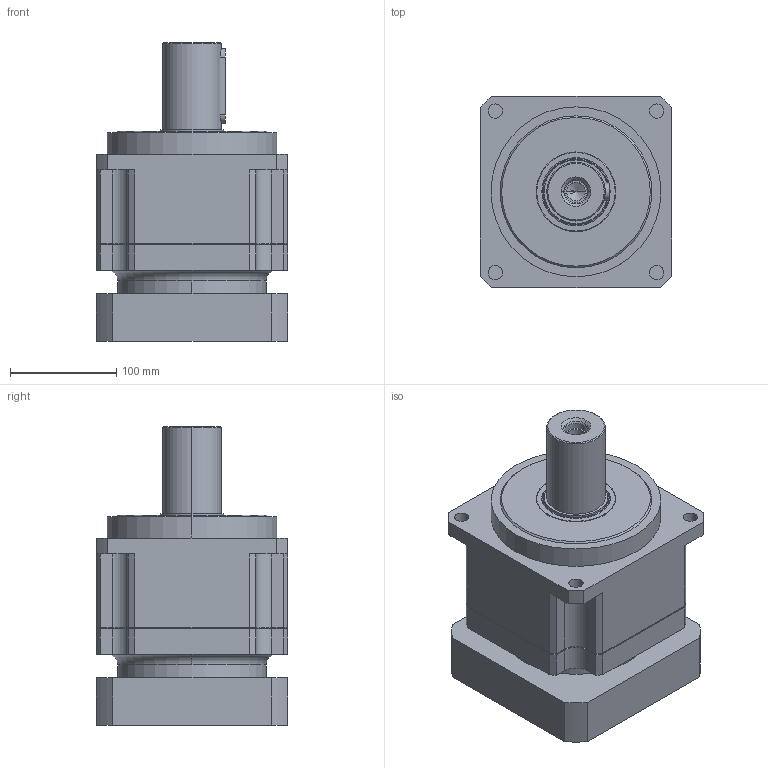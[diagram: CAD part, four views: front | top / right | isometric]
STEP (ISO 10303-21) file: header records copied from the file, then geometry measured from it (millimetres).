
FILE_DESCRIPTION (( 'STEP AP203' ), '1' );
FILE_NAME ('PAG180-L1-35-114.3-200.STEP', '2022-07-18T08:56:43', ( 'Windows User' ), ( 'P R C' ), 'SwSTEP 2.0', 'SolidWorks 2016', '' );
FILE_SCHEMA (( 'CONFIG_CONTROL_DESIGN' ));
Length unit declared in the file: millimetre
Products named in the file (7): 邧埴瑩 16x10x70; TC60-75-9_TC-34.9-55-7; 内六角圆柱头螺钉M10×35; PAG180-L1-35-114.3-200; PAG180齿圈转架; PAG180薊粣ん; PAG180珨撰蟀諉啣 180選 114.3x10 200xM12 45L
Assembly tree (6 placements, depth 2):
  PAG180-L1-35-114.3-200
    PAG180齿圈转架
    PAG180薊粣ん
    PAG180珨撰蟀諉啣 180選 114.3x10 200xM12 45L
    邧埴瑩 16x10x70
    TC60-75-9_TC-34.9-55-7
    内六角圆柱头螺钉M10×35
Bounding box: 180 x 180 x 281.5 mm (x, y, z)
Volume: 5096998.7 mm3; surface area: 417690.9 mm2
Topology: 6 solids, 6 shells, 1017 faces, 2672 edges, 1742 vertices
Faces by surface type: plane 568, cylinder 197, bspline 170, cone 62, torus 20
Entity records: 39990 total; most frequent: CARTESIAN_POINT 14943, ORIENTED_EDGE 5284, DIRECTION 4495, EDGE_CURVE 2642, LINE 1767, VECTOR 1767, VERTEX_POINT 1742, AXIS2_PLACEMENT_3D 1364
